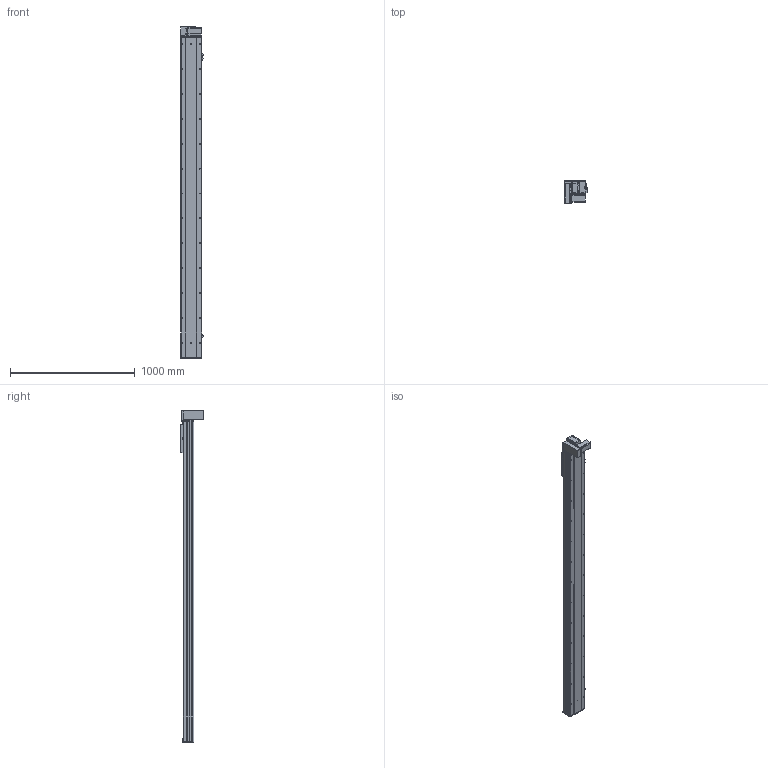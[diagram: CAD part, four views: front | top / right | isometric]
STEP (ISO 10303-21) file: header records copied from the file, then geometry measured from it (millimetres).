
FILE_DESCRIPTION (( 'STEP AP203' ), '1' );
FILE_NAME ('Y170CB-D105-S2250-BM-P400W.STEP', '2020-02-20T07:38:01', ( '微软用户' ), ( '微软中国' ), 'SwSTEP 2.0', 'SolidWorks 2017', '' );
FILE_SCHEMA (( 'CONFIG_CONTROL_DESIGN' ));
Length unit declared in the file: millimetre
Products named in the file (18): 70CB-詩湍--; san松下电机400不带刹车----; Y100-135俋离換覜ん--; 70CB-掛极-; Y170CB-陔俋离換覜結え---; --70CB --喘謫眊楊擘啣-; Y1埴倛裔; 70CB-耜裔啣-; 17B-耜蚾蟀諉啣----; 70C--詩湍揤踡え-; 00B-俋欶BM--163; 70CB--耜裔; 70B喘謫眊----; 70C-雄赽釱-奻-; B-源倛裔啣; Y170CB-D105-S2250-BM-P400W; 0C--雄赽釱俋欶-170; 0B-萇儂楊擘啣
Assembly tree (21 placements, depth 2):
  Y170CB-D105-S2250-BM-P400W
    B-源倛裔啣
    0B-萇儂楊擘啣
    san松下电机400不带刹车----
    70CB-掛极-
    --70CB --喘謫眊楊擘啣-
    70CB-耜裔啣-  x2
    70C--詩湍揤踡え-  x2
    70CB--耜裔
    70C-雄赽釱-奻-
    0C--雄赽釱俋欶-170
    70CB-詩湍--
    Y100-135俋离換覜ん--  x3
    Y170CB-陔俋离換覜結え---
    Y1埴倛裔
    17B-耜蚾蟀諉啣----
    00B-俋欶BM--163
    70B喘謫眊----
Bounding box: 183.5 x 184 x 2666 mm (x, y, z)
Volume: 11461567.2 mm3; surface area: 4135681.4 mm2
Topology: 21 solids, 21 shells, 1055 faces, 2837 edges, 1882 vertices
Faces by surface type: cylinder 569, plane 462, cone 24
Entity records: 33788 total; most frequent: CARTESIAN_POINT 6216, DIRECTION 5498, ORIENTED_EDGE 5156, EDGE_CURVE 2578, AXIS2_PLACEMENT_3D 2028, VERTEX_POINT 1712, VECTOR 1442, LINE 1442
